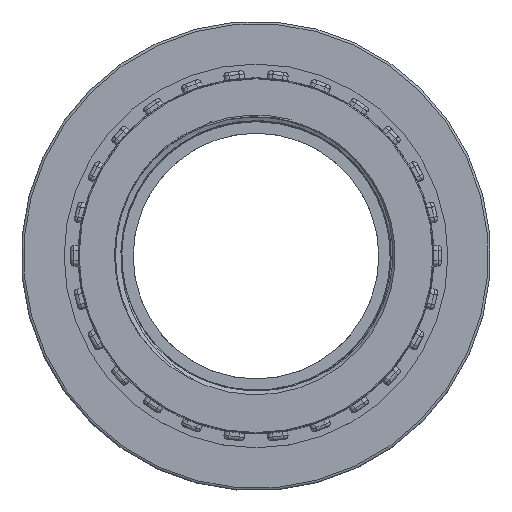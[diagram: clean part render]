
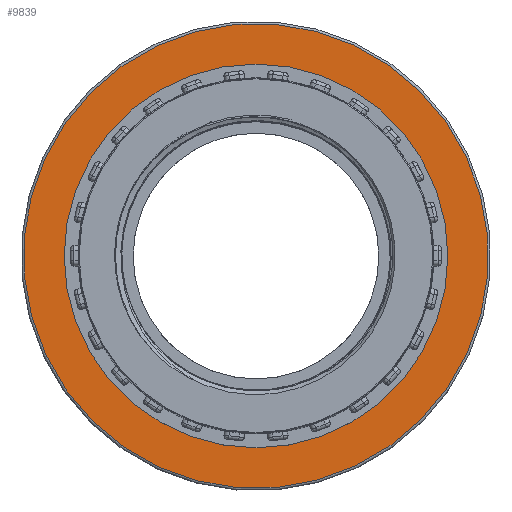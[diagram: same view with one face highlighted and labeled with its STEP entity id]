
A CAD part, top view. The second image highlights one B-rep face of the part: STEP entity #9839.
In plain terms, the highlighted planar face has unit normal (0, 0, 1).
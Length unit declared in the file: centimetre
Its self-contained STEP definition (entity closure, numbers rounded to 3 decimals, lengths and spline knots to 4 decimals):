
#1950=FACE_BOUND('',#2835,.T.);
#2278=FACE_OUTER_BOUND('',#2834,.T.);
#2834=EDGE_LOOP('',(#7555));
#2835=EDGE_LOOP('',(#7556));
#3079=CIRCLE('',#10088,4.045);
#3400=CIRCLE('',#10653,4.9);
#3641=VERTEX_POINT('',#17671);
#4127=VERTEX_POINT('',#24164);
#4554=EDGE_CURVE('',#3641,#3641,#3079,.T.);
#5333=EDGE_CURVE('',#4127,#4127,#3400,.T.);
#7555=ORIENTED_EDGE('',*,*,#5333,.F.);
#7556=ORIENTED_EDGE('',*,*,#4554,.T.);
#8888=PLANE('',#10655);
#9839=ADVANCED_FACE('',(#2278,#1950),#8888,.T.);
#10088=AXIS2_PLACEMENT_3D('',#17672,#11117,#11118);
#10653=AXIS2_PLACEMENT_3D('',#24165,#12640,#12641);
#10655=AXIS2_PLACEMENT_3D('',#24168,#12644,#12645);
#11117=DIRECTION('center_axis',(0.,0.,
-1.));
#11118=DIRECTION('ref_axis',(1.,0.,0.));
#12640=DIRECTION('center_axis',(0.,0.,
-1.));
#12641=DIRECTION('ref_axis',(0.419,0.908,0.));
#12644=DIRECTION('center_axis',(0.,0.,
1.));
#12645=DIRECTION('ref_axis',(0.908,-0.419,0.));
#17671=CARTESIAN_POINT('',(-4.045,0.,2.25));
#17672=CARTESIAN_POINT('Origin',(0.,0.,
2.25));
#24164=CARTESIAN_POINT('',(-2.0549,-4.4483,2.25));
#24165=CARTESIAN_POINT('Origin',(0.,0.,
2.25));
#24168=CARTESIAN_POINT('Origin',(-2.0759,-4.4937,2.25));
